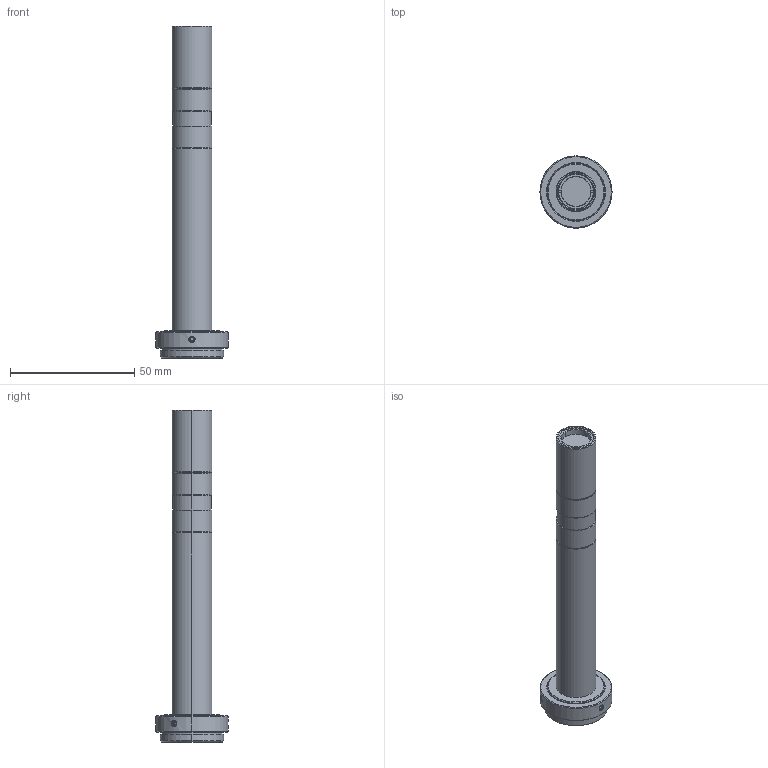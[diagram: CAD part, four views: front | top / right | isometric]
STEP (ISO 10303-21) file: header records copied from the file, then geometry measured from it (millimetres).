
FILE_DESCRIPTION (( 'STEP AP203' ), '1' );
FILE_NAME ('MML8-ST110_A03705A0100101A-001.STEP', '2013-12-12T02:07:52', ( 'SCHOTT' ), ( 'SCHOTT' ), 'SwSTEP 2.0', 'SolidWorks 2011', '' );
FILE_SCHEMA (( 'CONFIG_CONTROL_DESIGN' ));
Length unit declared in the file: millimetre
Products named in the file (1): MML8-ST110_A03705A0100101A-001
Bounding box: 29 x 29 x 133.43 mm (x, y, z)
Volume: 21762.5 mm3; surface area: 11948.4 mm2
Topology: 1 solids, 1 shells, 154 faces, 356 edges, 223 vertices
Faces by surface type: cone 67, plane 47, cylinder 38, torus 2
Entity records: 4628 total; most frequent: CARTESIAN_POINT 989, DIRECTION 781, ORIENTED_EDGE 712, EDGE_CURVE 356, AXIS2_PLACEMENT_3D 305, VERTEX_POINT 223, EDGE_LOOP 173, VECTOR 171
